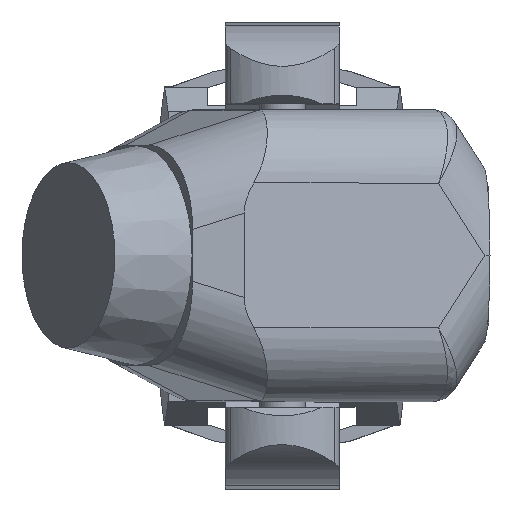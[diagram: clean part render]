
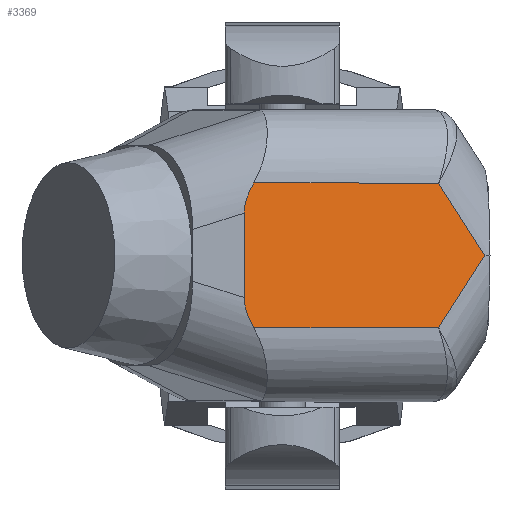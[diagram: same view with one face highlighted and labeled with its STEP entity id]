
A CAD part, top view. The second image highlights one B-rep face of the part: STEP entity #3369.
In plain terms, the highlighted planar face has unit normal (0.437, 0, 0.899) as drawn and (0.997, 0, 0.071) by its records, which use the part's own axes.
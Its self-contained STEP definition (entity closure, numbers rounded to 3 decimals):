
#159=PLANE('',#3729);
#248=ELLIPSE('',#3730,304.124,100.);
#249=ELLIPSE('',#3731,304.124,100.);
#459=LINE('',#5580,#759);
#460=LINE('',#5582,#760);
#461=LINE('',#5584,#761);
#462=LINE('',#5586,#762);
#463=LINE('',#5590,#763);
#759=VECTOR('',#4477,1000.);
#760=VECTOR('',#4478,1000.);
#761=VECTOR('',#4479,1000.);
#762=VECTOR('',#4480,1000.);
#763=VECTOR('',#4483,1000.);
#1437=ORIENTED_EDGE('',*,*,#2128,.T.);
#1438=ORIENTED_EDGE('',*,*,#2129,.T.);
#1439=ORIENTED_EDGE('',*,*,#2130,.T.);
#1440=ORIENTED_EDGE('',*,*,#2131,.T.);
#1441=ORIENTED_EDGE('',*,*,#2132,.T.);
#1442=ORIENTED_EDGE('',*,*,#2133,.T.);
#1443=ORIENTED_EDGE('',*,*,#2134,.F.);
#2128=EDGE_CURVE('',#2515,#2516,#248,.F.);
#2129=EDGE_CURVE('',#2516,#2517,#459,.T.);
#2130=EDGE_CURVE('',#2517,#2518,#460,.T.);
#2131=EDGE_CURVE('',#2518,#2519,#461,.F.);
#2132=EDGE_CURVE('',#2519,#2520,#462,.F.);
#2133=EDGE_CURVE('',#2520,#2521,#249,.F.);
#2134=EDGE_CURVE('',#2515,#2521,#463,.T.);
#2515=VERTEX_POINT('',#5578);
#2516=VERTEX_POINT('',#5579);
#2517=VERTEX_POINT('',#5581);
#2518=VERTEX_POINT('',#5583);
#2519=VERTEX_POINT('',#5585);
#2520=VERTEX_POINT('',#5587);
#2521=VERTEX_POINT('',#5589);
#2848=EDGE_LOOP('',(#1437,#1438,#1439,#1440,#1441,#1442,#1443));
#3092=FACE_BOUND('',#2848,.T.);
#3369=ADVANCED_FACE('',(#3092),#159,.F.);
#3729=AXIS2_PLACEMENT_3D('',#5576,#4473,#4474);
#3730=AXIS2_PLACEMENT_3D('',#5577,#4475,#4476);
#3731=AXIS2_PLACEMENT_3D('',#5588,#4481,#4482);
#4473=DIRECTION('',(-0.997,0.,-0.071));
#4474=DIRECTION('',(-0.071,0.,0.997));
#4475=DIRECTION('',(-0.997,0.,-0.071));
#4476=DIRECTION('',(-0.068,0.321,0.945));
#4477=DIRECTION('',(0.071,0.,-0.997));
#4478=DIRECTION('',(0.041,0.816,-0.577));
#4479=DIRECTION('',(0.041,-0.816,-0.577));
#4480=DIRECTION('',(0.071,0.,-0.997));
#4481=DIRECTION('',(-0.997,0.,-0.071));
#4482=DIRECTION('',(-0.068,-0.321,0.945));
#4483=DIRECTION('',(0.,1.,0.));
#5576=CARTESIAN_POINT('',(143.224,-643.218,591.166));
#5577=CARTESIAN_POINT('',(163.939,-132.471,302.107));
#5578=CARTESIAN_POINT('',(143.224,-45.899,591.166));
#5579=CARTESIAN_POINT('',(144.045,-78.588,579.706));
#5580=CARTESIAN_POINT('',(162.6,-78.588,320.783));
#5581=CARTESIAN_POINT('',(159.965,-78.588,357.552));
#5582=CARTESIAN_POINT('',(159.465,-88.462,364.537));
#5583=CARTESIAN_POINT('',(163.949,0.,301.956));
#5584=CARTESIAN_POINT('',(158.825,101.073,373.458));
#5585=CARTESIAN_POINT('',(159.965,78.588,357.552));
#5586=CARTESIAN_POINT('',(150.787,78.588,485.626));
#5587=CARTESIAN_POINT('',(144.045,78.588,579.706));
#5588=CARTESIAN_POINT('',(163.939,132.471,302.107));
#5589=CARTESIAN_POINT('',(143.224,45.899,591.166));
#5590=CARTESIAN_POINT('',(143.224,-643.218,591.166));
